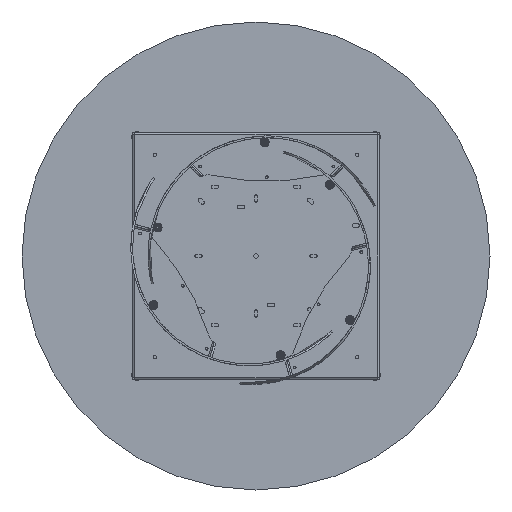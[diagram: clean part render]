
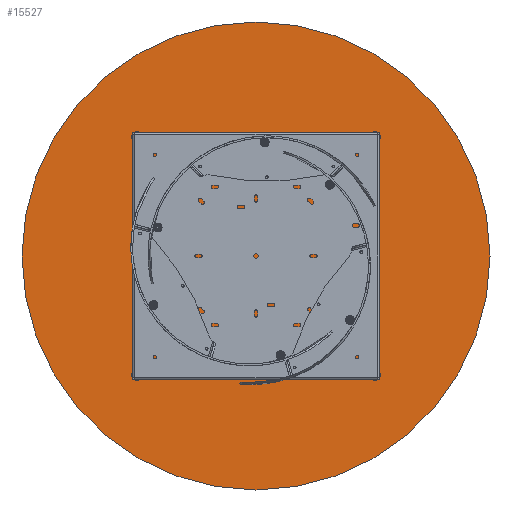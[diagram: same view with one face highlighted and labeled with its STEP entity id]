
A CAD part, front view. The second image highlights one B-rep face of the part: STEP entity #15527.
In plain terms, the highlighted planar face has unit normal (0, -1, 0).
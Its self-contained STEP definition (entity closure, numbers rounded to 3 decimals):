
#1066 = CARTESIAN_POINT ( 'NONE',  ( 0., 0., 0. ) ) ;
#1652 = EDGE_CURVE ( 'NONE', #6531, #9285, #9264, .T. ) ;
#3016 = CIRCLE ( 'NONE', #8355, 650. ) ;
#4320 = DIRECTION ( 'NONE',  ( 0., -1., 0. ) ) ;
#5819 = CARTESIAN_POINT ( 'NONE',  ( 0., 0., -650. ) ) ;
#6001 = DIRECTION ( 'NONE',  ( 0., -1., 0. ) ) ;
#6531 = VERTEX_POINT ( 'NONE', #5819 ) ;
#6798 = DIRECTION ( 'NONE',  ( 0., -1., 0. ) ) ;
#7188 = AXIS2_PLACEMENT_3D ( 'NONE', #14911, #6001, #13627 ) ;
#7688 = AXIS2_PLACEMENT_3D ( 'NONE', #1066, #4320, #11568 ) ;
#8355 = AXIS2_PLACEMENT_3D ( 'NONE', #12575, #6798, #9544 ) ;
#9264 = CIRCLE ( 'NONE', #7688, 650. ) ;
#9285 = VERTEX_POINT ( 'NONE', #10764 ) ;
#9544 = DIRECTION ( 'NONE',  ( 0., 0., -1. ) ) ;
#9783 = EDGE_CURVE ( 'NONE', #9285, #6531, #3016, .T. ) ;
#10226 = FACE_OUTER_BOUND ( 'NONE', #12267, .T. ) ;
#10414 = PLANE ( 'NONE',  #7188 ) ;
#10764 = CARTESIAN_POINT ( 'NONE',  ( 0., 0., 650. ) ) ;
#11568 = DIRECTION ( 'NONE',  ( 0., 0., -1. ) ) ;
#12267 = EDGE_LOOP ( 'NONE', ( #16016, #13647 ) ) ;
#12575 = CARTESIAN_POINT ( 'NONE',  ( 0., 0., 0. ) ) ;
#13627 = DIRECTION ( 'NONE',  ( 0., 0., -1. ) ) ;
#13647 = ORIENTED_EDGE ( 'NONE', *, *, #9783, .T. ) ;
#14911 = CARTESIAN_POINT ( 'NONE',  ( 0., 0., 0. ) ) ;
#15527 = ADVANCED_FACE ( 'NONE', ( #10226 ), #10414, .T. ) ;
#16016 = ORIENTED_EDGE ( 'NONE', *, *, #1652, .T. ) ;
